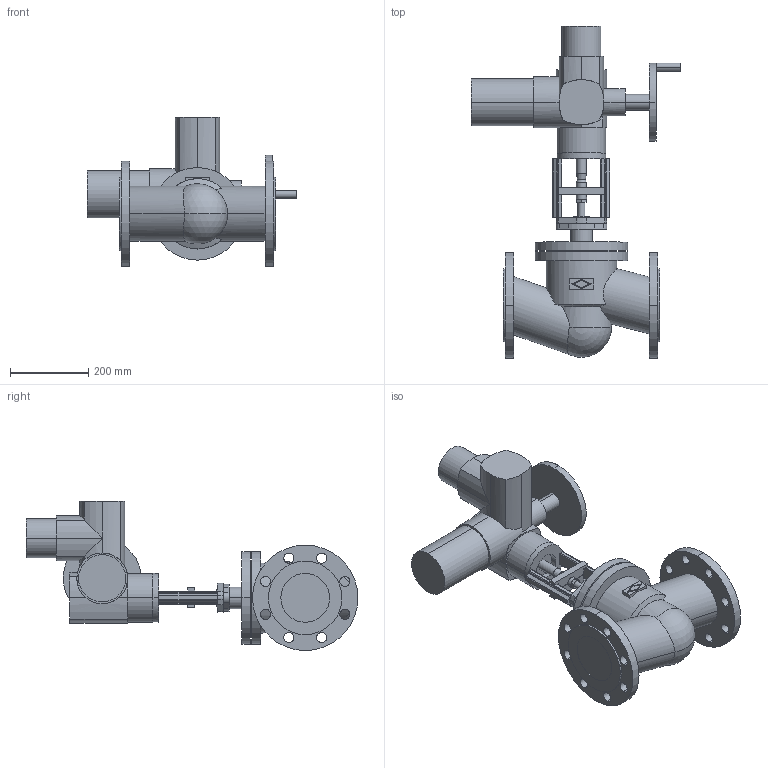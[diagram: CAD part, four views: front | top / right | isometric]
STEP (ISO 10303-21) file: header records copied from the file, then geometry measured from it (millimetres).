
FILE_DESCRIPTION(('OneSpaceDesigner STEP Export'),'2;1');
FILE_NAME('c000003111.stp','2007-01-09T11:45:50',(''),(''),'OneSpace Designer STEP processor for AP214 (Solid Model)','OneSpace Designer 14.00B 27-May-2006 (C) CoCreate Software GmbH','');
FILE_SCHEMA(('AUTOMOTIVE_DESIGN { 1 0 10303 214 1 1 1 1 }'));
Length unit declared in the file: millimetre
Products named in the file (3): 1; 2; 3
Bounding box: 536 x 850 x 382 mm (x, y, z)
Volume: 23608793.6 mm3; surface area: 1146615.6 mm2
Topology: 3 solids, 3 shells, 284 faces, 719 edges, 455 vertices
Faces by surface type: cylinder 148, plane 128, cone 6, sphere 2
Entity records: 8309 total; most frequent: CARTESIAN_POINT 1902, ORIENTED_EDGE 1434, DIRECTION 1179, EDGE_CURVE 717, VERTEX_POINT 455, AXIS2_PLACEMENT_3D 405, VECTOR 369, LINE 369
